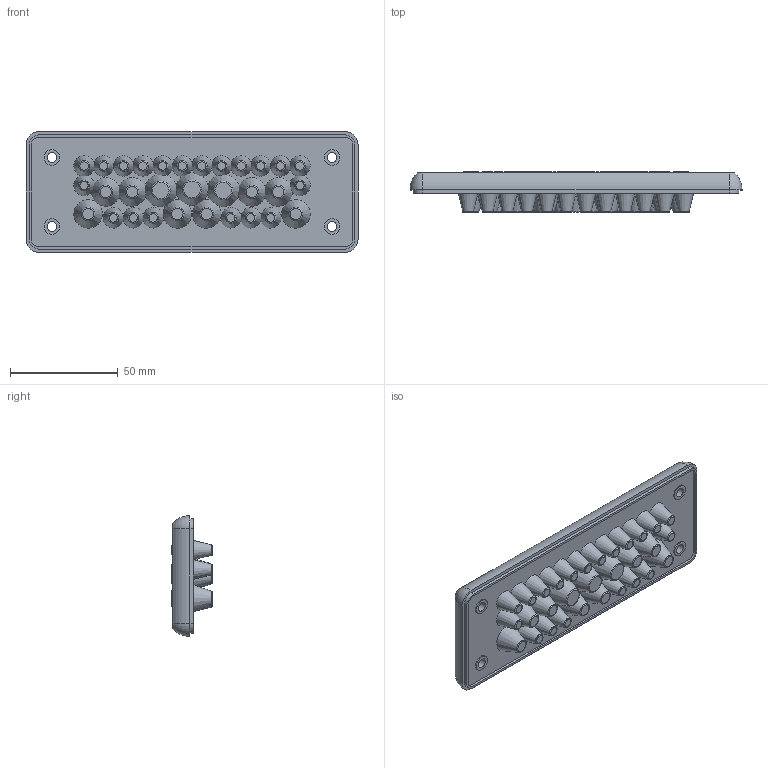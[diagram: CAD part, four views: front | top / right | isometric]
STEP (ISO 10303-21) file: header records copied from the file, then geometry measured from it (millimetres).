
FILE_DESCRIPTION(/* description */ ('STEP AP203'),/* implementation_level */ '2;1');
FILE_NAME(/* name */ '107561 MH-24 F 31-1',/* time_stamp */ '2024-10-07T13:26:26+02:00',/* author */ ('License CC BY-ND 4.0'),/* organization */ ('CADENAS'),/* preprocessor_version */ 'ST-DEVELOPER v19.3',/* originating_system */ 'PARTsolutions',/* authorisation */ ' ');
FILE_SCHEMA (('CONFIG_CONTROL_DESIGN'));
Length unit declared in the file: millimetre
Products named in the file (1): 107561 MH-24 F 31-1
Bounding box: 154 x 19 x 56 mm (x, y, z)
Volume: 86997.2 mm3; surface area: 26895.6 mm2
Topology: 1 solids, 1 shells, 222 faces, 499 edges, 319 vertices
Faces by surface type: plane 93, cone 66, torus 39, cylinder 24
Full cylindrical faces by diameter (mm): 4.5 x4, 7.2 x4
Entity records: 5551 total; most frequent: CARTESIAN_POINT 1072, DIRECTION 1022, ORIENTED_EDGE 702, AXIS2_PLACEMENT_3D 485, EDGE_LOOP 379, FACE_BOUND 379, EDGE_CURVE 351, VERTEX_POINT 280
